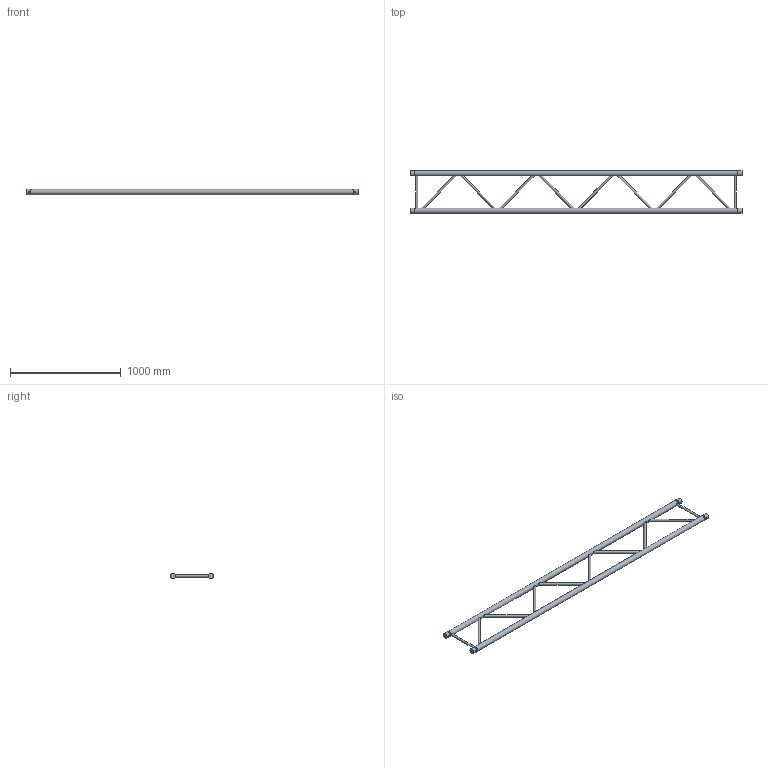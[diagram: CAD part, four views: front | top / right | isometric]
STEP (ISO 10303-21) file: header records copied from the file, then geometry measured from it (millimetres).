
FILE_DESCRIPTION(/* description */ (''),/* implementation_level */ '2;1');
FILE_NAME(/* name */ 'C:\Users\stephan\Desktop\Nieuwe map\H40L\111050159.stp',/* time_stamp */ '2016-09-12T12:53:25+02:00',/* author */ ('Stephan'),/* organization */ (''),/* preprocessor_version */ 'ST-DEVELOPER v15.6',/* originating_system */ 'Autodesk Inventor 2015',/* authorisation */ '');
FILE_SCHEMA (('AUTOMOTIVE_DESIGN { 1 0 10303 214 3 1 1 }'));
Length unit declared in the file: millimetre
Products named in the file (1): 160026986
Bounding box: 3000 x 387.3 x 48.3 mm (x, y, z)
Volume: 4038239.5 mm3; surface area: 1962952.9 mm2
Topology: 12 solids, 14 shells, 70 faces, 114 edges, 76 vertices
Faces by surface type: plane 40, cylinder 26, cone 4
Full cylindrical faces by diameter (mm): 10 x4, 20 x10, 41.8 x4, 42.3 x2, 48.3 x6
Entity records: 1850 total; most frequent: CARTESIAN_POINT 491, DIRECTION 250, ORIENTED_EDGE 152, AXIS2_PLACEMENT_3D 123, EDGE_LOOP 120, STYLED_ITEM 79, EDGE_CURVE 72, FACE_OUTER_BOUND 70
